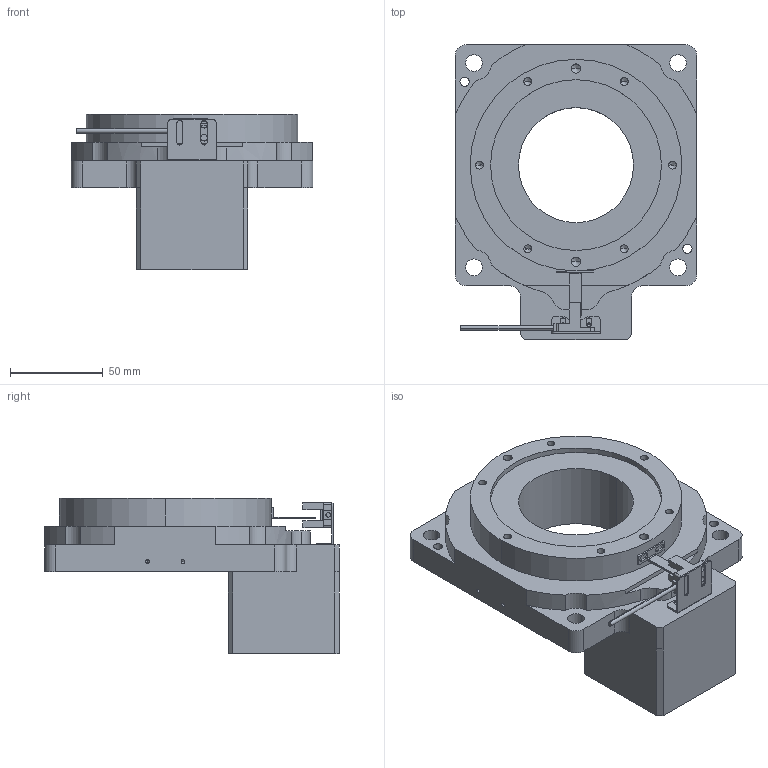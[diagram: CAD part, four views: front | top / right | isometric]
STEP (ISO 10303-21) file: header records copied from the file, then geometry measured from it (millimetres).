
FILE_DESCRIPTION (( 'STEP AP203' ), '1' );
FILE_NAME ('RTN130-18K-8-38.10-47.14-M4(57²½½ø).STEP', '2024-05-21T10:08:37', ( '' ), ( '' ), 'SwSTEP 2.0', 'SolidWorks 2023', '' );
FILE_SCHEMA (( 'CONFIG_CONTROL_DESIGN' ));
Length unit declared in the file: millimetre
Products named in the file (1): RTN130-18K-8-38.10-47.14-M4(57步进)
Bounding box: 130 x 158.8 x 83.5 mm (x, y, z)
Volume: 587167.7 mm3; surface area: 76468.2 mm2
Topology: 4 solids, 6 shells, 278 faces, 737 edges, 458 vertices
Faces by surface type: cylinder 124, plane 114, cone 40
Entity records: 8480 total; most frequent: DIRECTION 1503, CARTESIAN_POINT 1440, ORIENTED_EDGE 1394, EDGE_CURVE 697, AXIS2_PLACEMENT_3D 529, VERTEX_POINT 458, VECTOR 445, LINE 445
